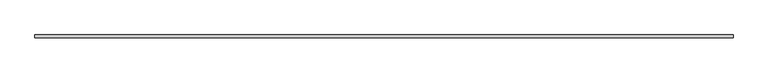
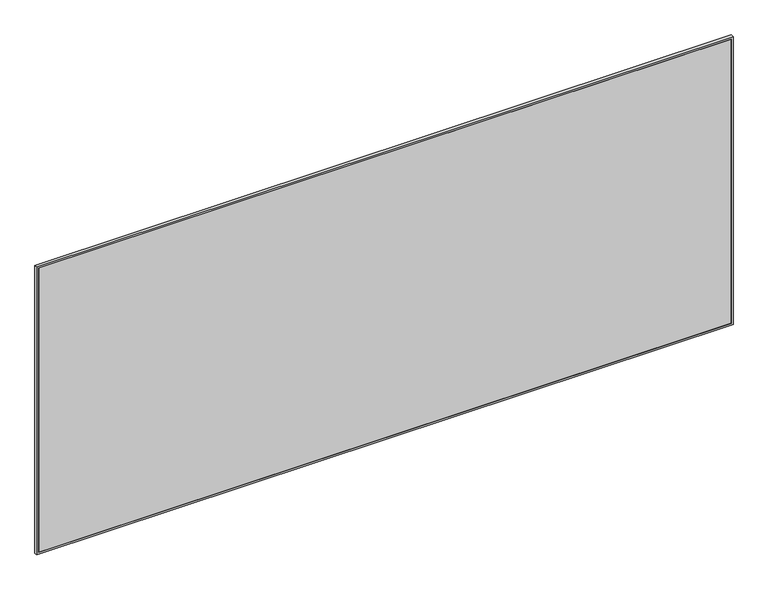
"""IFC4 building model written with IfcOpenShell, lengths in millimetres: furniture geometry, V01 Espejo : V1.1 Espejo SSHH Estudiantes."""

from ifc_helpers import new_model, si_unit, frame, origin, place, context, project, spatial, polyline, outline, extrude, source, transform, mapped, element, save


def furniture_be81a5af(model_context):
    return source(origin(), model_context, "Body", "SweptSolid", [
        extrude(outline(polyline([(1050.0, 1244.7003264), (1050.0, -1155.2996736), (0.0, -1155.2996736), (0.0, 1244.7003264), (1050.0, 1244.7003264)]), holes=[polyline([(1043.0, 1237.7003264), (7.0, 1237.7003264), (7.0, -1148.2996736), (1043.0, -1148.2996736), (1043.0, 1237.7003264)])]), frame((0.0, -10.0, 0.0), z_axis=(0.0, 1.0, 0.0), x_axis=(0.0, 0.0, 1.0)), (0.0, 0.0, 1.0), 10.0),
        extrude(outline(polyline([(1237.7003264, -10.0), (-1148.2996736, -10.0), (-1148.2996736, 0.0), (1237.7003264, 0.0), (1237.7003264, -10.0)])), frame((0.0, 0.0, 7.0), z_axis=(0.0, 0.0, 1.0), x_axis=(1.0, 0.0, 0.0)), (0.0, 0.0, 1.0), 1036.0),
    ])


if __name__ == "__main__":
    model = new_model("IFC4")
    model_context = context("Model", 3, world=origin())
    ifc_project = project(units=[si_unit("LENGTHUNIT", "METRE", prefix="MILLI")], contexts=[model_context])
    site = spatial("IfcSite", under=ifc_project)
    building = spatial("IfcBuilding", under=site)
    placement = place(None, origin())
    furniture_shape = furniture_be81a5af(model_context)
    element("IfcFurniture", 1, ObjectType="V01 Espejo : V1.1 Espejo SSHH Estudiantes", at=placement, inside=building, context=model_context, shape_type="MappedRepresentation", body=[
        mapped(furniture_shape, transform((0.0, 0.0, 0.0), x_axis=(1.0, 0.0, 0.0), y_axis=(0.0, 1.0, 0.0), z_axis=(0.0, 0.0, 1.0))),
    ])
    save(model, "model.ifc")
